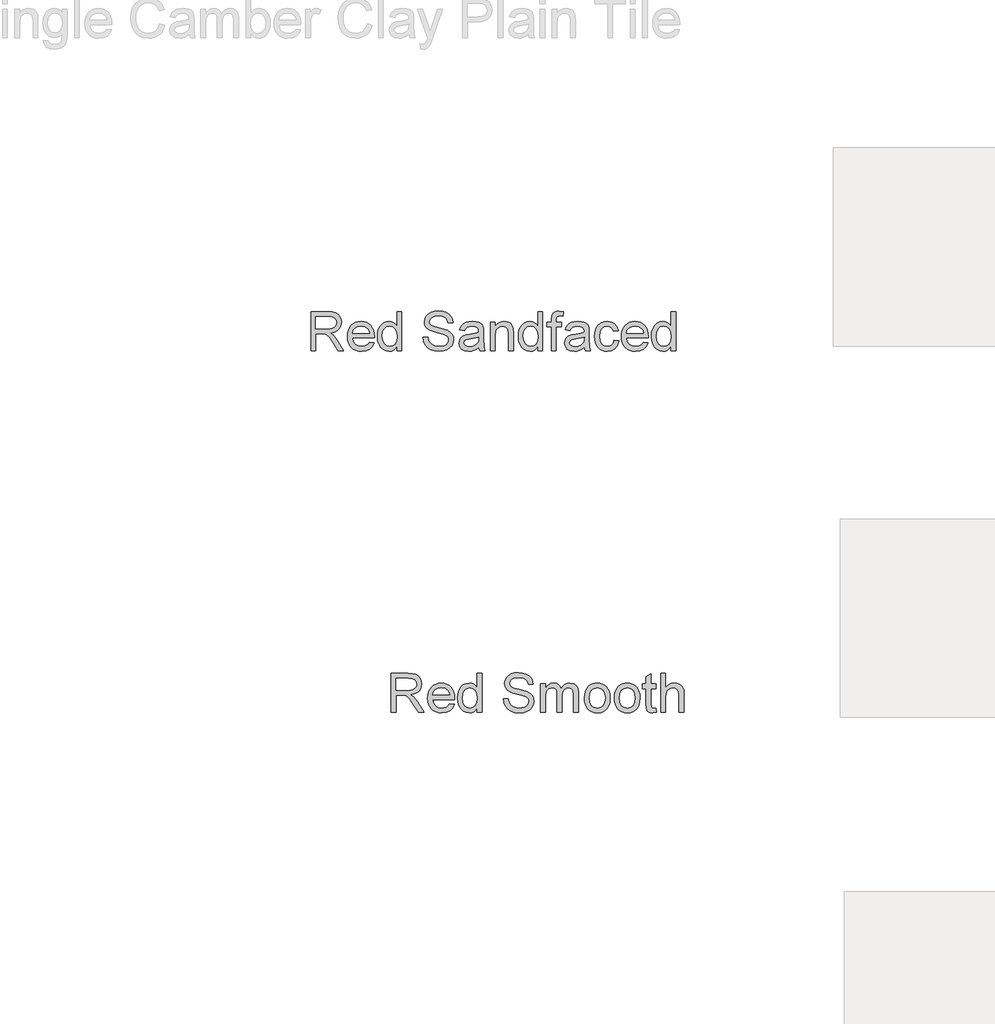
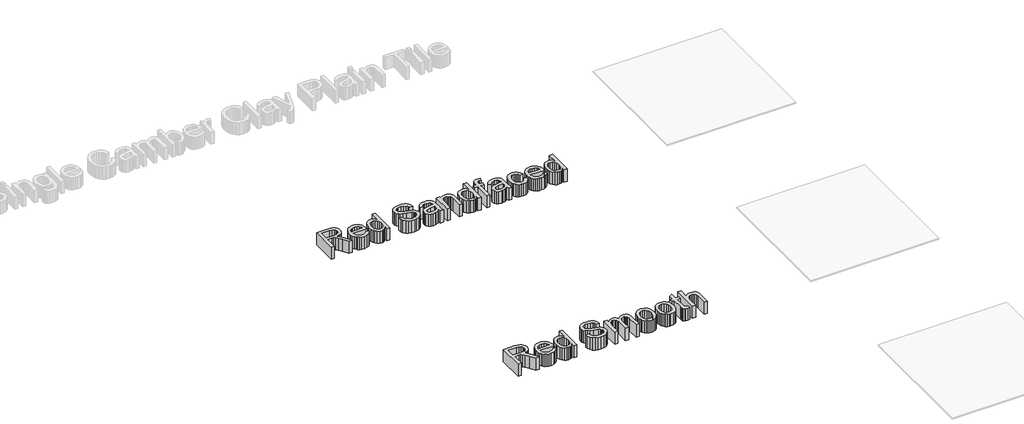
# One storey, part 4 of 6: 2 proxies.
"""IFC4 building model written with IfcOpenShell, lengths in millimetres."""

from ifc_helpers import new_model, si_unit, frame, origin, place, context, project, spatial, polyline, outline, extrude, element, save

model = new_model("IFC4")

# Units and contexts
model_context = context("Model", 3, world=origin())
ifc_project = project(units=[si_unit("LENGTHUNIT", "METRE", prefix="MILLI")], contexts=[model_context])

# Site, building, storey
site = spatial("IfcSite", under=ifc_project)
building = spatial("IfcBuilding", under=site)
storey = spatial("IfcBuildingStorey", under=building, Name="Marley Clay Plain Tile", Elevation=3000.0)

# Proxies
placement = place(None, origin())
element("IfcBuildingElementProxy", 1, Name="600mm Arial", ObjectType="600mm Arial", at=placement, inside=storey, context=model_context, shape_type="SweptSolid", body=[
    extrude(outline(polyline([(-14114.0036212, 825.9962329), (-14114.0036212, 1121.3808482), (-13986.7199673, 1121.3808482), (-13952.5102317, 1119.3886607), (-13927.6214096, 1113.4120982), (-13909.4303038, 1102.3784444), (-13895.3137173, 1085.2149829), (-13886.2542221, 1063.93193), (-13883.2343904, 1040.5395021), (-13888.2373952, 1011.4409444), (-13903.2464096, 987.3183482), (-13914.6158507, 977.4881199), (-13928.7121548, 969.6320502), (-13965.0853519, 959.8423867), (-13944.099775, 944.0491175), (-13914.1718904, 906.0443098), (-13864.9170827, 825.9962329), (-13907.8257365, 825.9962329), (-13946.2632365, 887.2221944), (-13974.0276596, 927.7510406), (-13993.5348712, 946.8976752), (-14011.0949673, 953.9289252), (-14032.5132365, 955.2270021), (-14077.0805442, 955.2270021), (-14077.0805442, 825.9962329), (-14114.0036212, 825.9962329)]), holes=[polyline([(-14077.0805442, 992.150079), (-13994.4363135, 992.150079), (-13970.7013375, 993.4571704), (-13952.2848712, 997.3784444), (-13938.4206885, 1004.1753194), (-13928.3425635, 1014.1092136), (-13922.2037413, 1026.1254396), (-13920.1574673, 1039.1693098), (-13924.0607125, 1057.1801271), (-13935.7704481, 1071.6933482), (-13955.9176837, 1081.2666656), (-13985.1334288, 1084.4577713), (-14077.0805442, 1084.4577713), (-14077.0805442, 992.150079)])]), frame((0.0, 0.0, 3000.0), z_axis=(0.0, 0.0, 1.0), x_axis=(1.0, 0.0, 0.0)), (0.0, 0.0, 1.0), 150.0),
    extrude(outline(polyline([(-13671.3593904, 890.6116175), (-13635.1574673, 885.9962329), (-13648.2013375, 858.7185886), (-13669.0156404, 838.3279636), (-13697.131626, 825.6176271), (-13732.0805442, 821.3808482), (-13754.9907005, 823.2085225), (-13775.4038615, 828.6915454), (-13793.3200274, 837.8299168), (-13808.7391981, 850.6236367), (-13821.138537, 866.7166355), (-13829.9952077, 885.7528434), (-13835.3092101, 907.7322605), (-13837.0805442, 932.6548867), (-13835.2911812, 958.4226151), (-13829.9230923, 981.134454), (-13820.9762774, 1000.7904035), (-13808.4507365, 1017.3904636), (-13793.0721308, 1030.5785646), (-13775.5661212, 1039.9986367), (-13755.9327077, 1045.65068), (-13734.1718904, 1047.5346944), (-13713.1119445, 1045.6551872), (-13694.0667221, 1040.0166656), (-13677.0362233, 1030.6191295), (-13662.0204481, 1017.462579), (-13649.7630863, 1000.8985766), (-13641.0078279, 981.2786848), (-13635.7546728, 958.6029035), (-13634.0036212, 932.8712329), (-13634.2199673, 922.9193098), (-13800.1574673, 922.9193098), (-13793.7662413, 895.2810886), (-13778.9194865, 874.962579), (-13757.4922029, 862.4685886), (-13731.3593904, 858.3039252), (-13711.7079481, 860.2330117), (-13695.1574673, 866.0202713), (-13681.7079481, 876.0262809), (-13671.3593904, 890.6116175)]), holes=[polyline([(-13800.1574673, 959.8423867), (-13670.9266981, 959.8423867), (-13675.9206885, 979.3495982), (-13685.7103519, 993.3039252), (-13707.2367942, 1006.2846944), (-13734.3161212, 1010.6116175), (-13759.2049433, 1007.1590934), (-13779.7848712, 996.8015213), (-13794.0907606, 980.6566896), (-13800.1574673, 959.8423867)])]), frame((0.0, 0.0, 3000.0), z_axis=(0.0, 0.0, 1.0), x_axis=(1.0, 0.0, 0.0)), (0.0, 0.0, 1.0), 150.0),
    extrude(outline(polyline([(-13463.2343904, 825.9962329), (-13463.2343904, 860.8279636), (-13474.2815659, 843.5698506), (-13487.6634769, 831.2426271), (-13503.3801236, 823.846293), (-13521.4315058, 821.3808482), (-13545.3016981, 824.9505598), (-13567.1526596, 835.6596944), (-13585.6502558, 852.760055), (-13599.4603519, 875.5034444), (-13608.0601115, 902.9703915), (-13610.9266981, 934.2414252), (-13608.2854721, 965.1248386), (-13600.3617942, 993.0154636), (-13587.1646788, 1016.3267617), (-13568.7031404, 1033.4721944), (-13546.3744144, 1044.0190694), (-13521.5757365, 1047.5346944), (-13503.5108327, 1045.0196704), (-13487.537275, 1037.4745982), (-13473.9976115, 1025.9090934), (-13463.2343904, 1011.3327713), (-13463.2343904, 1121.3808482), (-13426.3113135, 1121.3808482), (-13426.3113135, 825.9962329), (-13463.2343904, 825.9962329)]), holes=[polyline([(-13574.0036212, 934.3856559), (-13569.8389577, 900.9872184), (-13557.3449673, 877.2342136), (-13539.1899192, 863.0364973), (-13518.0420827, 858.3039252), (-13496.9032606, 862.8201511), (-13479.2079481, 876.368829), (-13467.2277798, 899.2023627), (-13463.2343904, 931.5731559), (-13467.2998952, 966.9637809), (-13479.4964096, 991.5010406), (-13497.6424433, 1005.8339732), (-13519.5565058, 1010.6116175), (-13540.9206885, 1006.0232761), (-13558.4266981, 992.2582521), (-13570.1093904, 968.6134204), (-13574.0036212, 934.3856559)])]), frame((0.0, 0.0, 3000.0), z_axis=(0.0, 0.0, 1.0), x_axis=(1.0, 0.0, 0.0)), (0.0, 0.0, 1.0), 150.0),
    extrude(outline(polyline([(-13264.7728519, 927.5346944), (-13227.849775, 927.5346944), (-13223.6129962, 907.0449107), (-13215.9507365, 890.5755598), (-13203.9976115, 877.5046463), (-13186.8882365, 867.2101752), (-13165.974775, 860.5304877), (-13142.6093904, 858.3039252), (-13122.0384769, 859.9896223), (-13104.0276596, 865.0467136), (-13089.4333087, 873.0515213), (-13079.1117942, 883.5803675), (-13072.9729721, 895.6687088), (-13070.9266981, 908.3520021), (-13072.45915, 920.7107761), (-13077.0565058, 931.3928675), (-13086.3954481, 940.5064492), (-13102.1526596, 948.1596944), (-13155.9146788, 962.2582521), (-13191.2061452, 971.58818), (-13213.787275, 980.4673867), (-13232.1676837, 992.8892617), (-13245.193525, 1007.9433482), (-13252.9549433, 1025.3051271), (-13255.5420827, 1044.650079), (-13252.3419625, 1066.27568), (-13242.7416019, 1086.4409444), (-13226.9934048, 1103.5322906), (-13205.349775, 1115.9361367), (-13179.3702077, 1123.4812088), (-13150.6141981, 1125.9962329), (-13119.4603519, 1123.3640213), (-13092.2007365, 1115.4673867), (-13069.8089096, 1102.4685886), (-13053.2584288, 1084.5298867), (-13042.7836692, 1062.7690694), (-13038.6190058, 1038.3039252), (-13075.5420827, 1038.3039252), (-13082.3209288, 1060.3351752), (-13096.4555442, 1076.2366175), (-13118.5408808, 1085.8640213), (-13149.1718904, 1089.0731559), (-13180.5240538, 1085.900079), (-13202.0324673, 1076.3808482), (-13214.4723712, 1062.3724348), (-13218.6190058, 1045.7318098), (-13215.6803038, 1031.5431079), (-13206.8641981, 1020.1308482), (-13186.0228519, 1009.9265213), (-13146.5757365, 999.5058482), (-13081.2391981, 980.9721944), (-13060.1905202, 967.5767617), (-13045.506025, 951.0443098), (-13036.8792221, 931.5551271), (-13034.0036212, 909.2895021), (-13037.3119144, 886.5280838), (-13047.2367942, 865.118829), (-13063.3726115, 846.6933482), (-13085.3137173, 832.8832521), (-13111.6989337, 824.2564492), (-13141.1670827, 821.3808482), (-13177.3419625, 824.4818098), (-13207.1166019, 833.7846944), (-13230.833549, 849.3255598), (-13248.8353519, 871.1404636), (-13260.3918423, 897.7149829), (-13264.7728519, 927.5346944)])), frame((0.0, 0.0, 3000.0), z_axis=(0.0, 0.0, 1.0), x_axis=(1.0, 0.0, 0.0)), (0.0, 0.0, 1.0), 150.0),
    extrude(outline(polyline([(-12983.2343904, 825.9962329), (-12983.2343904, 1042.9193098), (-12946.3113135, 1042.9193098), (-12946.3113135, 1007.2221944), (-12935.2055442, 1023.61943), (-12920.9266981, 1036.4649829), (-12903.9615538, 1044.7672665), (-12884.7968904, 1047.5346944), (-12864.2620346, 1044.71318), (-12847.8016981, 1036.2486367), (-12835.506025, 1022.6999588), (-12827.4651596, 1004.6260406), (-12814.006626, 1023.3985766), (-12798.6550635, 1036.8075309), (-12781.4104721, 1044.8529035), (-12762.2728519, 1047.5346944), (-12734.5174433, 1043.072555), (-12713.9916019, 1029.6861367), (-12701.3083087, 1007.0148627), (-12697.0805442, 974.6981559), (-12697.0805442, 825.9962329), (-12734.0036212, 825.9962329), (-12734.0036212, 958.8327713), (-12737.4291019, 989.6620982), (-12742.2428038, 998.1626992), (-12749.8329481, 1004.8423867), (-12759.5955683, 1009.1693098), (-12770.9266981, 1010.6116175), (-12790.9297029, 1006.915704), (-12807.2367942, 995.8279636), (-12818.0811452, 976.5911848), (-12821.6959288, 948.4481559), (-12821.6959288, 825.9962329), (-12858.6190058, 825.9962329), (-12858.6190058, 962.9433482), (-12860.755424, 983.8207521), (-12867.1646788, 998.712579), (-12878.4417221, 1007.6368579), (-12895.1815058, 1010.6116175), (-12909.4062654, 1008.6284444), (-12922.5132365, 1002.6789252), (-12933.3305442, 992.9072906), (-12940.6863135, 979.4577713), (-12944.9050635, 960.7979156), (-12946.3113135, 935.3952713), (-12946.3113135, 825.9962329), (-12983.2343904, 825.9962329)])), frame((0.0, 0.0, 3000.0), z_axis=(0.0, 0.0, 1.0), x_axis=(1.0, 0.0, 0.0)), (0.0, 0.0, 1.0), 150.0),
    extrude(outline(polyline([(-12650.9266981, 934.4577713), (-12648.9300034, 962.5512208), (-12642.9399192, 986.759454), (-12632.9564457, 1007.0824708), (-12618.9795827, 1023.5202713), (-12604.9080683, 1034.0265814), (-12589.3762173, 1041.5310886), (-12572.3840298, 1046.033793), (-12553.9315058, 1047.5346944), (-12533.5611632, 1045.7070201), (-12515.1424433, 1040.2239973), (-12498.6753459, 1031.0856259), (-12484.1598712, 1018.2919059), (-12472.3126656, 1002.2755297), (-12463.850376, 983.4691896), (-12458.7730022, 961.8728855), (-12457.0805442, 937.4866175), (-12460.0733327, 900.1849348), (-12469.0516981, 871.7895021), (-12483.7542221, 850.5244781), (-12503.9194865, 834.6140213), (-12527.8708087, 824.6891415), (-12553.9315058, 821.3808482), (-12574.5993243, 823.2017617), (-12593.1893183, 828.6645021), (-12609.7014877, 837.7690694), (-12624.1358327, 850.5154636), (-12635.8568363, 866.6873386), (-12644.2289817, 886.0683482), (-12649.252269, 908.6584925), (-12650.9266981, 934.4577713)]), holes=[polyline([(-12614.0036212, 934.5298867), (-12609.7307846, 901.1134204), (-12596.912275, 877.306329), (-12577.6214096, 863.0545261), (-12553.9315058, 858.3039252), (-12530.349775, 863.0815694), (-12511.0949673, 877.4145021), (-12498.2764577, 901.5370982), (-12494.0036212, 935.6837329), (-12498.303501, 968.1266415), (-12511.2031404, 991.6092136), (-12530.4849913, 1005.8610165), (-12553.9315058, 1010.6116175), (-12577.6214096, 1005.8790454), (-12596.912275, 991.681329), (-12609.7307846, 967.9283242), (-12614.0036212, 934.5298867)])]), frame((0.0, 0.0, 3000.0), z_axis=(0.0, 0.0, 1.0), x_axis=(1.0, 0.0, 0.0)), (0.0, 0.0, 1.0), 150.0),
    extrude(outline(polyline([(-12424.7728519, 934.4577713), (-12422.7761572, 962.5512208), (-12416.7860731, 986.759454), (-12406.8025995, 1007.0824708), (-12392.8257365, 1023.5202713), (-12378.7542221, 1034.0265814), (-12363.2223712, 1041.5310886), (-12346.2301837, 1046.033793), (-12327.7776596, 1047.5346944), (-12307.4073171, 1045.7070201), (-12288.9885971, 1040.2239973), (-12272.5214998, 1031.0856259), (-12258.006025, 1018.2919059), (-12246.1588195, 1002.2755297), (-12237.6965298, 983.4691896), (-12232.619156, 961.8728855), (-12230.9266981, 937.4866175), (-12233.9194865, 900.1849348), (-12242.8978519, 871.7895021), (-12257.600376, 850.5244781), (-12277.7656404, 834.6140213), (-12301.7169625, 824.6891415), (-12327.7776596, 821.3808482), (-12348.4454781, 823.2017617), (-12367.0354721, 828.6645021), (-12383.5476416, 837.7690694), (-12397.9819865, 850.5154636), (-12409.7029901, 866.6873386), (-12418.0751356, 886.0683482), (-12423.0984228, 908.6584925), (-12424.7728519, 934.4577713)]), holes=[polyline([(-12387.849775, 934.5298867), (-12383.5769385, 901.1134204), (-12370.7584288, 877.306329), (-12351.4675635, 863.0545261), (-12327.7776596, 858.3039252), (-12304.1959288, 863.0815694), (-12284.9411212, 877.4145021), (-12272.1226115, 901.5370982), (-12267.849775, 935.6837329), (-12272.1496548, 968.1266415), (-12285.0492942, 991.6092136), (-12304.3311452, 1005.8610165), (-12327.7776596, 1010.6116175), (-12351.4675635, 1005.8790454), (-12370.7584288, 991.681329), (-12383.5769385, 967.9283242), (-12387.849775, 934.5298867)])]), frame((0.0, 0.0, 3000.0), z_axis=(0.0, 0.0, 1.0), x_axis=(1.0, 0.0, 0.0)), (0.0, 0.0, 1.0), 150.0),
    extrude(outline(polyline([(-12110.9266981, 856.7895021), (-12106.3113135, 824.9145021), (-12133.9315058, 821.3808482), (-12151.6538615, 822.9133002), (-12164.8690058, 827.5106559), (-12174.2079481, 834.5959925), (-12180.3016981, 843.5923867), (-12183.6550635, 859.0431079), (-12184.7728519, 885.4914252), (-12184.7728519, 1005.9962329), (-12212.4651596, 1005.9962329), (-12212.4651596, 1042.9193098), (-12184.7728519, 1042.9193098), (-12184.7728519, 1095.6356559), (-12147.849775, 1117.3423867), (-12147.849775, 1042.9193098), (-12110.9266981, 1042.9193098), (-12110.9266981, 1005.9962329), (-12147.849775, 1005.9962329), (-12147.849775, 886.5731559), (-12145.9026596, 867.5346944), (-12139.5925635, 860.7919059), (-12127.0084288, 858.3039252), (-12110.9266981, 856.7895021)])), frame((0.0, 0.0, 3000.0), z_axis=(0.0, 0.0, 1.0), x_axis=(1.0, 0.0, 0.0)), (0.0, 0.0, 1.0), 150.0),
    extrude(outline(polyline([(-12074.0036212, 825.9962329), (-12074.0036212, 1121.3808482), (-12037.0805442, 1121.3808482), (-12037.0805442, 1012.775079), (-12023.5183447, 1027.9824107), (-12008.2884769, 1038.8447906), (-11991.3909409, 1045.3622184), (-11972.8257365, 1047.5346944), (-11950.5240538, 1045.1639011), (-11931.3593904, 1038.0515213), (-11916.2692462, 1026.7564492), (-11906.1911212, 1011.837579), (-11900.5120346, 991.3387809), (-11898.6190058, 963.3039252), (-11898.6190058, 825.9962329), (-11935.5420827, 825.9962329), (-11935.5420827, 959.4818098), (-11938.4807846, 982.5947906), (-11947.2968904, 998.4241175), (-11961.5036212, 1007.5647425), (-11980.6141981, 1010.6116175), (-11996.2181644, 1008.556329), (-12010.8666019, 1002.3904636), (-12023.0000154, 992.7089732), (-12031.0589096, 980.1068098), (-12035.5751356, 963.3580117), (-12037.0805442, 941.2366175), (-12037.0805442, 825.9962329), (-12074.0036212, 825.9962329)])), frame((0.0, 0.0, 3000.0), z_axis=(0.0, 0.0, 1.0), x_axis=(1.0, 0.0, 0.0)), (0.0, 0.0, 1.0), 150.0),
])
element("IfcBuildingElementProxy", 2, Name="600mm Arial", ObjectType="600mm Arial", at=placement, inside=storey, context=model_context, shape_type="SweptSolid", body=[
    extrude(outline(polyline([(-14720.6380138, 3560.2643118), (-14720.6380138, 3855.6489272), (-14593.3543599, 3855.6489272), (-14559.1446244, 3853.6567397), (-14534.2558023, 3847.6801772), (-14516.0646965, 3836.6465234), (-14501.9481099, 3819.4830618), (-14492.8886148, 3798.200009), (-14489.868783, 3774.8075811), (-14494.8717878, 3745.7090234), (-14509.8808023, 3721.5864272), (-14521.2502434, 3711.7561989), (-14535.3465474, 3703.9001291), (-14571.7197446, 3694.1104657), (-14550.7341676, 3678.3171965), (-14520.806283, 3640.3123888), (-14471.5514753, 3560.2643118), (-14514.4601292, 3560.2643118), (-14552.8976292, 3621.4902734), (-14580.6620523, 3662.0191195), (-14600.1692638, 3681.1657541), (-14617.7293599, 3688.1970041), (-14639.1476292, 3689.4950811), (-14683.7149369, 3689.4950811), (-14683.7149369, 3560.2643118), (-14720.6380138, 3560.2643118)]), holes=[polyline([(-14683.7149369, 3726.418158), (-14601.0707061, 3726.418158), (-14577.3357301, 3727.7252493), (-14558.9192638, 3731.6465234), (-14545.0550811, 3738.4433984), (-14534.9769561, 3748.3772926), (-14528.838134, 3760.3935186), (-14526.7918599, 3773.4373888), (-14530.6951051, 3791.4482061), (-14542.4048407, 3805.9614272), (-14562.5520763, 3815.5347445), (-14591.7678215, 3818.7258503), (-14683.7149369, 3818.7258503), (-14683.7149369, 3726.418158)])]), frame((0.0, 0.0, 3000.0), z_axis=(0.0, 0.0, 1.0), x_axis=(1.0, 0.0, 0.0)), (0.0, 0.0, 1.0), 150.0),
    extrude(outline(polyline([(-14277.993783, 3624.8796965), (-14241.7918599, 3620.2643118), (-14254.8357301, 3592.9866676), (-14275.650033, 3572.5960426), (-14303.7660186, 3559.8857061), (-14338.7149369, 3555.6489272), (-14361.6250931, 3557.4766015), (-14382.0382542, 3562.9596243), (-14399.95442, 3572.0979957), (-14415.3735907, 3584.8917157), (-14427.7729297, 3600.9847145), (-14436.6296003, 3620.0209224), (-14441.9436027, 3642.0003395), (-14443.7149369, 3666.9229657), (-14441.9255739, 3692.690694), (-14436.5574849, 3715.402533), (-14427.61067, 3735.0584825), (-14415.0851292, 3751.6585426), (-14399.7065234, 3764.8466436), (-14382.2005138, 3774.2667157), (-14362.5671003, 3779.918759), (-14340.806283, 3781.8027734), (-14319.7463371, 3779.9232662), (-14300.7011148, 3774.2847445), (-14283.670616, 3764.8872085), (-14268.6548407, 3751.730658), (-14256.3974789, 3735.1666556), (-14247.6422205, 3715.5467638), (-14242.3890655, 3692.8709825), (-14240.6380138, 3667.1393118), (-14240.8543599, 3657.1873888), (-14406.7918599, 3657.1873888), (-14400.400634, 3629.5491676), (-14385.5538792, 3609.230658), (-14364.1265955, 3596.7366676), (-14337.993783, 3592.5720041), (-14318.3423407, 3594.5010907), (-14301.7918599, 3600.2883503), (-14288.3423407, 3610.2943599), (-14277.993783, 3624.8796965)]), holes=[polyline([(-14406.7918599, 3694.1104657), (-14277.5610907, 3694.1104657), (-14282.5550811, 3713.6176772), (-14292.3447446, 3727.5720041), (-14313.8711869, 3740.5527734), (-14340.9505138, 3744.8796965), (-14365.8393359, 3741.4271724), (-14386.4192638, 3731.0696003), (-14400.7251532, 3714.9247686), (-14406.7918599, 3694.1104657)])]), frame((0.0, 0.0, 3000.0), z_axis=(0.0, 0.0, 1.0), x_axis=(1.0, 0.0, 0.0)), (0.0, 0.0, 1.0), 150.0),
    extrude(outline(polyline([(-14069.868783, 3560.2643118), (-14069.868783, 3595.0960426), (-14080.9159585, 3577.8379296), (-14094.2978696, 3565.5107061), (-14110.0145162, 3558.1143719), (-14128.0658984, 3555.6489272), (-14151.9360907, 3559.2186388), (-14173.7870523, 3569.9277734), (-14192.2846484, 3587.028134), (-14206.0947446, 3609.7715234), (-14214.6945042, 3637.2384705), (-14217.5610907, 3668.5095041), (-14214.9198648, 3699.3929176), (-14206.9961869, 3727.2835426), (-14193.7990715, 3750.5948407), (-14175.337533, 3767.7402734), (-14153.0088071, 3778.2871484), (-14128.2101292, 3781.8027734), (-14110.1452253, 3779.2877493), (-14094.1716676, 3771.7426772), (-14080.6320042, 3760.1771724), (-14069.868783, 3745.6008503), (-14069.868783, 3855.6489272), (-14032.9457061, 3855.6489272), (-14032.9457061, 3560.2643118), (-14069.868783, 3560.2643118)]), holes=[polyline([(-14180.6380138, 3668.6537349), (-14176.4733503, 3635.2552974), (-14163.9793599, 3611.5022926), (-14145.8243119, 3597.3045763), (-14124.6764753, 3592.5720041), (-14103.5376532, 3597.0882301), (-14085.8423407, 3610.636908), (-14073.8621724, 3633.4704416), (-14069.868783, 3665.8412349), (-14073.9342878, 3701.2318599), (-14086.1308023, 3725.7691195), (-14104.2768359, 3740.1020522), (-14126.1908984, 3744.8796965), (-14147.5550811, 3740.2913551), (-14165.0610907, 3726.5263311), (-14176.743783, 3702.8814993), (-14180.6380138, 3668.6537349)])]), frame((0.0, 0.0, 3000.0), z_axis=(0.0, 0.0, 1.0), x_axis=(1.0, 0.0, 0.0)), (0.0, 0.0, 1.0), 150.0),
    extrude(outline(polyline([(-13871.4072446, 3661.8027734), (-13834.4841676, 3661.8027734), (-13830.2473888, 3641.3129897), (-13822.5851292, 3624.8436388), (-13810.6320042, 3611.7727253), (-13793.5226292, 3601.4782541), (-13772.6091676, 3594.7985666), (-13749.243783, 3592.5720041), (-13728.6728696, 3594.2577013), (-13710.6620523, 3599.3147926), (-13696.0677013, 3607.3196003), (-13685.7461869, 3617.8484465), (-13679.6073648, 3629.9367878), (-13677.5610907, 3642.6200811), (-13679.0935426, 3654.9788551), (-13683.6908984, 3665.6609465), (-13693.0298407, 3674.7745282), (-13708.7870523, 3682.4277734), (-13762.5490715, 3696.5263311), (-13797.8405378, 3705.856259), (-13820.4216676, 3714.7354657), (-13838.8020763, 3727.1573407), (-13851.8279176, 3742.2114272), (-13859.5893359, 3759.5732061), (-13862.1764753, 3778.918158), (-13858.9763551, 3800.543759), (-13849.3759946, 3820.7090234), (-13833.6277974, 3837.8003695), (-13811.9841676, 3850.2042157), (-13786.0046003, 3857.7492878), (-13757.2485907, 3860.2643118), (-13726.0947446, 3857.6321003), (-13698.8351292, 3849.7354657), (-13676.4433023, 3836.7366676), (-13659.8928215, 3818.7979657), (-13649.4180619, 3797.0371484), (-13645.2533984, 3772.5720041), (-13682.1764753, 3772.5720041), (-13688.9553215, 3794.6032541), (-13703.0899369, 3810.5046965), (-13725.1752734, 3820.1321003), (-13755.806283, 3823.3412349), (-13787.1584465, 3820.168158), (-13808.6668599, 3810.6489272), (-13821.1067638, 3796.6405138), (-13825.2533984, 3779.9998888), (-13822.3146965, 3765.8111868), (-13813.4985907, 3754.3989272), (-13792.6572446, 3744.1946003), (-13753.2101292, 3733.7739272), (-13687.8735907, 3715.2402734), (-13666.8249128, 3701.8448407), (-13652.1404176, 3685.3123888), (-13643.5136148, 3665.8232061), (-13640.6380138, 3643.5575811), (-13643.9463071, 3620.7961628), (-13653.8711869, 3599.386908), (-13670.0070042, 3580.9614272), (-13691.9481099, 3567.1513311), (-13718.3333263, 3558.5245282), (-13747.8014753, 3555.6489272), (-13783.9763551, 3558.7498888), (-13813.7509946, 3568.0527734), (-13837.4679417, 3583.5936388), (-13855.4697446, 3605.4085426), (-13867.0262349, 3631.9830618), (-13871.4072446, 3661.8027734)])), frame((0.0, 0.0, 3000.0), z_axis=(0.0, 0.0, 1.0), x_axis=(1.0, 0.0, 0.0)), (0.0, 0.0, 1.0), 150.0),
    extrude(outline(polyline([(-13451.4072446, 3587.9566195), (-13469.0484705, 3572.8304176), (-13487.212533, 3562.9325811), (-13506.3140955, 3557.4698407), (-13526.7678215, 3555.6489272), (-13557.6241917, 3560.0299368), (-13580.3856099, 3573.1729657), (-13594.4210667, 3593.1308984), (-13599.0995523, 3617.9566195), (-13597.3327253, 3633.2631099), (-13592.0322446, 3647.1633503), (-13583.8561628, 3659.0623888), (-13573.462533, 3668.3652734), (-13547.6091676, 3680.480658), (-13515.6620523, 3686.0335426), (-13477.9096484, 3691.8748888), (-13451.6235907, 3698.7258503), (-13451.4072446, 3706.9470041), (-13453.9493119, 3723.4253695), (-13461.5755138, 3734.2066195), (-13478.6308023, 3742.2114272), (-13502.3928215, 3744.8796965), (-13524.3880138, 3743.1038551), (-13539.7485907, 3737.7763311), (-13550.2233503, 3727.9235666), (-13557.5610907, 3712.5720041), (-13594.4841676, 3717.1873888), (-13588.0749128, 3737.3796965), (-13578.5106099, 3753.2450811), (-13564.8988311, 3765.3784945), (-13546.3471484, 3774.3748888), (-13523.6578455, 3779.9458022), (-13497.6332061, 3781.8027734), (-13472.6722686, 3780.1621484), (-13452.8856099, 3775.2402734), (-13437.9667398, 3767.839432), (-13427.6091676, 3758.761908), (-13420.7401773, 3747.5389513), (-13416.2870523, 3733.7018118), (-13414.4841676, 3701.3941195), (-13414.4841676, 3655.4566195), (-13412.6091676, 3591.3099849), (-13405.2533984, 3560.2643118), (-13442.1764753, 3560.2643118), (-13451.4072446, 3587.9566195)]), holes=[polyline([(-13451.4072446, 3661.8027734), (-13510.9745523, 3650.480658), (-13542.7413792, 3644.4950811), (-13557.1283984, 3634.7595041), (-13562.1764753, 3620.5527734), (-13559.4270763, 3609.5732061), (-13551.1788792, 3600.5768118), (-13537.6121724, 3594.5732061), (-13518.9072446, 3592.5720041), (-13499.0755138, 3594.7805378), (-13481.5514753, 3601.4061388), (-13467.3447446, 3611.168759), (-13457.4649369, 3622.7883503), (-13453.0839273, 3634.7595041), (-13451.6235907, 3651.3460426), (-13451.4072446, 3661.8027734)])]), frame((0.0, 0.0, 3000.0), z_axis=(0.0, 0.0, 1.0), x_axis=(1.0, 0.0, 0.0)), (0.0, 0.0, 1.0), 150.0),
    extrude(outline(polyline([(-13363.7149369, 3560.2643118), (-13363.7149369, 3777.1873888), (-13326.7918599, 3777.1873888), (-13326.7918599, 3746.8989272), (-13313.9643359, 3762.1693599), (-13298.5586869, 3773.0768118), (-13280.5749128, 3779.621283), (-13260.0130138, 3781.8027734), (-13241.8128936, 3780.0449609), (-13225.1452253, 3774.7715234), (-13211.2449849, 3766.6405138), (-13201.3471484, 3756.3099849), (-13190.2774369, 3729.1585426), (-13188.3303215, 3693.4614272), (-13188.3303215, 3560.2643118), (-13225.2533984, 3560.2643118), (-13225.2533984, 3688.4854657), (-13229.5082061, 3721.1537349), (-13235.3946244, 3730.8802974), (-13244.5442638, 3738.4253695), (-13256.2720282, 3743.2661147), (-13269.8928215, 3744.8796965), (-13291.5184224, 3741.2558984), (-13309.9529176, 3730.3845041), (-13317.3199549, 3721.5098046), (-13322.5821244, 3709.3808984), (-13326.7918599, 3675.3604657), (-13326.7918599, 3560.2643118), (-13363.7149369, 3560.2643118)])), frame((0.0, 0.0, 3000.0), z_axis=(0.0, 0.0, 1.0), x_axis=(1.0, 0.0, 0.0)), (0.0, 0.0, 1.0), 150.0),
    extrude(outline(polyline([(-13003.7149369, 3560.2643118), (-13003.7149369, 3595.0960426), (-13014.7621123, 3577.8379296), (-13028.1440234, 3565.5107061), (-13043.86067, 3558.1143719), (-13061.9120523, 3555.6489272), (-13085.7822446, 3559.2186388), (-13107.6332061, 3569.9277734), (-13126.1308023, 3587.028134), (-13139.9408984, 3609.7715234), (-13148.540658, 3637.2384705), (-13151.4072446, 3668.5095041), (-13148.7660186, 3699.3929176), (-13140.8423407, 3727.2835426), (-13127.6452253, 3750.5948407), (-13109.1836869, 3767.7402734), (-13086.8549609, 3778.2871484), (-13062.056283, 3781.8027734), (-13043.9913792, 3779.2877493), (-13028.0178215, 3771.7426772), (-13014.478158, 3760.1771724), (-13003.7149369, 3745.6008503), (-13003.7149369, 3855.6489272), (-12966.7918599, 3855.6489272), (-12966.7918599, 3560.2643118), (-13003.7149369, 3560.2643118)]), holes=[polyline([(-13114.4841676, 3668.6537349), (-13110.3195042, 3635.2552974), (-13097.8255138, 3611.5022926), (-13079.6704657, 3597.3045763), (-13058.5226292, 3592.5720041), (-13037.3838071, 3597.0882301), (-13019.6884946, 3610.636908), (-13007.7083263, 3633.4704416), (-13003.7149369, 3665.8412349), (-13007.7804417, 3701.2318599), (-13019.9769561, 3725.7691195), (-13038.1229898, 3740.1020522), (-13060.0370523, 3744.8796965), (-13081.4012349, 3740.2913551), (-13098.9072446, 3726.5263311), (-13110.5899369, 3702.8814993), (-13114.4841676, 3668.6537349)])]), frame((0.0, 0.0, 3000.0), z_axis=(0.0, 0.0, 1.0), x_axis=(1.0, 0.0, 0.0)), (0.0, 0.0, 1.0), 150.0),
    extrude(outline(polyline([(-12902.1764753, 3560.2643118), (-12902.1764753, 3740.2643118), (-12934.4841676, 3740.2643118), (-12934.4841676, 3777.1873888), (-12902.1764753, 3777.1873888), (-12902.1764753, 3799.0383503), (-12898.2822446, 3829.8316195), (-12890.8543599, 3842.1092638), (-12879.3880138, 3851.8268118), (-12863.3423407, 3858.1549368), (-12842.1764753, 3860.2643118), (-12808.4985907, 3856.2258503), (-12813.9072446, 3821.6104657), (-12835.181283, 3823.3412349), (-12849.2167398, 3821.808783), (-12858.4384946, 3817.2114272), (-12863.5496724, 3808.4313791), (-12865.2533984, 3794.3508503), (-12865.2533984, 3777.1873888), (-12823.7149369, 3777.1873888), (-12823.7149369, 3740.2643118), (-12865.2533984, 3740.2643118), (-12865.2533984, 3560.2643118), (-12902.1764753, 3560.2643118)])), frame((0.0, 0.0, 3000.0), z_axis=(0.0, 0.0, 1.0), x_axis=(1.0, 0.0, 0.0)), (0.0, 0.0, 1.0), 150.0),
    extrude(outline(polyline([(-12652.9457061, 3587.9566195), (-12670.5869321, 3572.8304176), (-12688.7509946, 3562.9325811), (-12707.8525571, 3557.4698407), (-12728.306283, 3555.6489272), (-12759.1626532, 3560.0299368), (-12781.9240715, 3573.1729657), (-12795.9595282, 3593.1308984), (-12800.6380138, 3617.9566195), (-12798.8711869, 3633.2631099), (-12793.5707061, 3647.1633503), (-12785.3946244, 3659.0623888), (-12775.0009946, 3668.3652734), (-12749.1476292, 3680.480658), (-12717.2005138, 3686.0335426), (-12679.4481099, 3691.8748888), (-12653.1620523, 3698.7258503), (-12652.9457061, 3706.9470041), (-12655.4877734, 3723.4253695), (-12663.1139753, 3734.2066195), (-12680.1692638, 3742.2114272), (-12703.931283, 3744.8796965), (-12725.9264753, 3743.1038551), (-12741.2870523, 3737.7763311), (-12751.7618119, 3727.9235666), (-12759.0995523, 3712.5720041), (-12796.0226292, 3717.1873888), (-12789.6133744, 3737.3796965), (-12780.0490715, 3753.2450811), (-12766.4372926, 3765.3784945), (-12747.8856099, 3774.3748888), (-12725.1963071, 3779.9458022), (-12699.1716676, 3781.8027734), (-12674.2107301, 3780.1621484), (-12654.4240715, 3775.2402734), (-12639.5052013, 3767.839432), (-12629.1476292, 3758.761908), (-12622.2786388, 3747.5389513), (-12617.8255138, 3733.7018118), (-12616.0226292, 3701.3941195), (-12616.0226292, 3655.4566195), (-12614.1476292, 3591.3099849), (-12606.7918599, 3560.2643118), (-12643.7149369, 3560.2643118), (-12652.9457061, 3587.9566195)]), holes=[polyline([(-12652.9457061, 3661.8027734), (-12712.5130138, 3650.480658), (-12744.2798407, 3644.4950811), (-12758.6668599, 3634.7595041), (-12763.7149369, 3620.5527734), (-12760.9655378, 3609.5732061), (-12752.7173407, 3600.5768118), (-12739.150634, 3594.5732061), (-12720.4457061, 3592.5720041), (-12700.6139753, 3594.7805378), (-12683.0899369, 3601.4061388), (-12668.8832061, 3611.168759), (-12659.0033984, 3622.7883503), (-12654.6223888, 3634.7595041), (-12653.1620523, 3651.3460426), (-12652.9457061, 3661.8027734)])]), frame((0.0, 0.0, 3000.0), z_axis=(0.0, 0.0, 1.0), x_axis=(1.0, 0.0, 0.0)), (0.0, 0.0, 1.0), 150.0),
    extrude(outline(polyline([(-12426.7918599, 3638.7258503), (-12389.868783, 3634.1104657), (-12400.1632542, 3601.2709224), (-12419.5082061, 3576.4542157), (-12446.0827253, 3560.8502493), (-12478.0658984, 3555.6489272), (-12498.7742818, 3557.4630799), (-12517.3417398, 3562.9055378), (-12533.7682722, 3571.976301), (-12548.0538792, 3584.6753695), (-12559.6171304, 3600.7638611), (-12567.8765955, 3620.0028936), (-12572.8322746, 3642.3924669), (-12574.4841676, 3667.9325811), (-12571.6626532, 3700.7901532), (-12563.1981099, 3729.2667157), (-12548.9553215, 3752.262509), (-12528.7990715, 3768.6777734), (-12504.6854898, 3778.5215234), (-12478.5707061, 3781.8027734), (-12447.3717878, 3777.2955618), (-12422.4288792, 3763.7739272), (-12404.5352494, 3741.9590234), (-12394.4841676, 3712.5720041), (-12431.4072446, 3707.9566195), (-12438.1049609, 3724.0653936), (-12448.5346484, 3735.6128695), (-12462.119384, 3742.5629897), (-12478.2822446, 3744.8796965), (-12502.1434224, 3740.3183984), (-12521.0827253, 3726.6345041), (-12533.4414994, 3703.0888311), (-12537.5610907, 3668.9421965), (-12533.5316436, 3634.3358263), (-12521.4433023, 3610.7090234), (-12502.8465474, 3597.106259), (-12479.2918599, 3592.5720041), (-12460.1722686, 3595.402533), (-12444.4961869, 3603.8941195), (-12433.0929417, 3618.2631099), (-12426.7918599, 3638.7258503)])), frame((0.0, 0.0, 3000.0), z_axis=(0.0, 0.0, 1.0), x_axis=(1.0, 0.0, 0.0)), (0.0, 0.0, 1.0), 150.0),
    extrude(outline(polyline([(-12205.6860907, 3624.8796965), (-12169.4841676, 3620.2643118), (-12182.5280378, 3592.9866676), (-12203.3423407, 3572.5960426), (-12231.4583263, 3559.8857061), (-12266.4072446, 3555.6489272), (-12289.3174008, 3557.4766015), (-12309.7305619, 3562.9596243), (-12327.6467277, 3572.0979957), (-12343.0658984, 3584.8917157), (-12355.4652373, 3600.9847145), (-12364.321908, 3620.0209224), (-12369.6359104, 3642.0003395), (-12371.4072446, 3666.9229657), (-12369.6178816, 3692.690694), (-12364.2497926, 3715.402533), (-12355.3029777, 3735.0584825), (-12342.7774369, 3751.6585426), (-12327.3988311, 3764.8466436), (-12309.8928215, 3774.2667157), (-12290.259408, 3779.918759), (-12268.4985907, 3781.8027734), (-12247.4386448, 3779.9232662), (-12228.3934224, 3774.2847445), (-12211.3629236, 3764.8872085), (-12196.3471484, 3751.730658), (-12184.0897866, 3735.1666556), (-12175.3345282, 3715.5467638), (-12170.0813732, 3692.8709825), (-12168.3303215, 3667.1393118), (-12168.5466676, 3657.1873888), (-12334.4841676, 3657.1873888), (-12328.0929417, 3629.5491676), (-12313.2461869, 3609.230658), (-12291.8189032, 3596.7366676), (-12265.6860907, 3592.5720041), (-12246.0346484, 3594.5010907), (-12229.4841676, 3600.2883503), (-12216.0346484, 3610.2943599), (-12205.6860907, 3624.8796965)]), holes=[polyline([(-12334.4841676, 3694.1104657), (-12205.2533984, 3694.1104657), (-12210.2473888, 3713.6176772), (-12220.0370523, 3727.5720041), (-12241.5634946, 3740.5527734), (-12268.6428215, 3744.8796965), (-12293.5316436, 3741.4271724), (-12314.1115715, 3731.0696003), (-12328.4174609, 3714.9247686), (-12334.4841676, 3694.1104657)])]), frame((0.0, 0.0, 3000.0), z_axis=(0.0, 0.0, 1.0), x_axis=(1.0, 0.0, 0.0)), (0.0, 0.0, 1.0), 150.0),
    extrude(outline(polyline([(-11997.5610907, 3560.2643118), (-11997.5610907, 3595.0960426), (-12008.6082662, 3577.8379296), (-12021.9901773, 3565.5107061), (-12037.7068239, 3558.1143719), (-12055.7582061, 3555.6489272), (-12079.6283984, 3559.2186388), (-12101.4793599, 3569.9277734), (-12119.9769561, 3587.028134), (-12133.7870523, 3609.7715234), (-12142.3868119, 3637.2384705), (-12145.2533984, 3668.5095041), (-12142.6121724, 3699.3929176), (-12134.6884946, 3727.2835426), (-12121.4913792, 3750.5948407), (-12103.0298407, 3767.7402734), (-12080.7011148, 3778.2871484), (-12055.9024369, 3781.8027734), (-12037.837533, 3779.2877493), (-12021.8639753, 3771.7426772), (-12008.3243119, 3760.1771724), (-11997.5610907, 3745.6008503), (-11997.5610907, 3855.6489272), (-11960.6380138, 3855.6489272), (-11960.6380138, 3560.2643118), (-11997.5610907, 3560.2643118)]), holes=[polyline([(-12108.3303215, 3668.6537349), (-12104.165658, 3635.2552974), (-12091.6716676, 3611.5022926), (-12073.5166196, 3597.3045763), (-12052.368783, 3592.5720041), (-12031.2299609, 3597.0882301), (-12013.5346484, 3610.636908), (-12001.5544801, 3633.4704416), (-11997.5610907, 3665.8412349), (-12001.6265955, 3701.2318599), (-12013.8231099, 3725.7691195), (-12031.9691436, 3740.1020522), (-12053.8832061, 3744.8796965), (-12075.2473888, 3740.2913551), (-12092.7533984, 3726.5263311), (-12104.4360907, 3702.8814993), (-12108.3303215, 3668.6537349)])]), frame((0.0, 0.0, 3000.0), z_axis=(0.0, 0.0, 1.0), x_axis=(1.0, 0.0, 0.0)), (0.0, 0.0, 1.0), 150.0),
])

save(model, "model.ifc")
